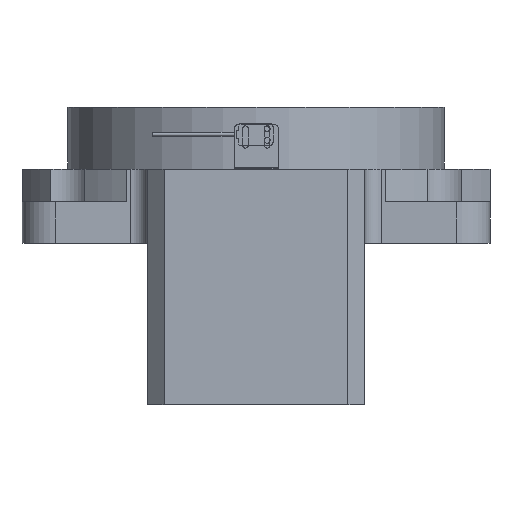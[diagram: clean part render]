
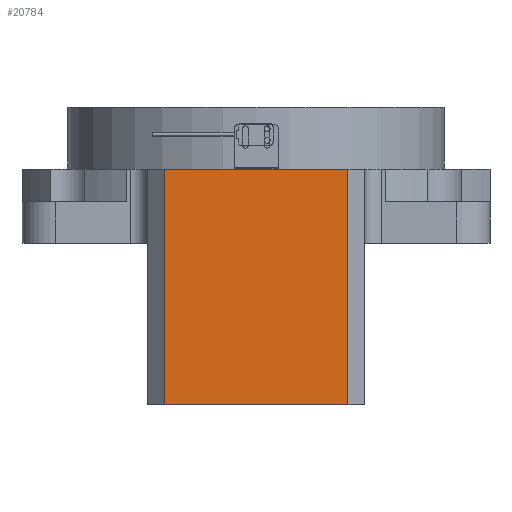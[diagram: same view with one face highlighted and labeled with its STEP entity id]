
A CAD part, front view. The second image highlights one B-rep face of the part: STEP entity #20784.
In plain terms, the highlighted planar face has unit normal (0, -1, 0).
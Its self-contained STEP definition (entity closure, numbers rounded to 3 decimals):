
#589 = CARTESIAN_POINT ( 'NONE',  ( -67.992, -177.645, 43.75 ) ) ;
#1160 = ORIENTED_EDGE ( 'NONE', *, *, #19049, .F. ) ;
#1302 = CARTESIAN_POINT ( 'NONE',  ( -67.992, -177.645, -97.25 ) ) ;
#1626 = LINE ( 'NONE', #30123, #11378 ) ;
#2577 = DIRECTION ( 'NONE',  ( 0., 1., 0. ) ) ;
#2611 = LINE ( 'NONE', #589, #11471 ) ;
#2724 = CARTESIAN_POINT ( 'NONE',  ( 42.008, -177.645, -97.25 ) ) ;
#4510 = VERTEX_POINT ( 'NONE', #16879 ) ;
#5062 = FACE_OUTER_BOUND ( 'NONE', #29558, .T. ) ;
#5529 = PLANE ( 'NONE',  #9931 ) ;
#6213 = CARTESIAN_POINT ( 'NONE',  ( 42.008, -177.645, 80.75 ) ) ;
#7570 = CARTESIAN_POINT ( 'NONE',  ( -67.992, -177.645, 80.75 ) ) ;
#8124 = EDGE_CURVE ( 'NONE', #30254, #4510, #2611, .T. ) ;
#8390 = LINE ( 'NONE', #6213, #22521 ) ;
#9425 = EDGE_CURVE ( 'NONE', #4510, #18528, #8390, .T. ) ;
#9578 = DIRECTION ( 'NONE',  ( 1., 0., 0. ) ) ;
#9613 = DIRECTION ( 'NONE',  ( 1., 0., 0. ) ) ;
#9931 = AXIS2_PLACEMENT_3D ( 'NONE', #7570, #2577, #9578 ) ;
#11378 = VECTOR ( 'NONE', #13846, 1000. ) ;
#11471 = VECTOR ( 'NONE', #9613, 1000. ) ;
#12188 = DIRECTION ( 'NONE',  ( -1., 0., 0. ) ) ;
#13846 = DIRECTION ( 'NONE',  ( 0., 0., -1. ) ) ;
#15769 = VECTOR ( 'NONE', #12188, 1000. ) ;
#16317 = CARTESIAN_POINT ( 'NONE',  ( 42.008, -177.645, -97.25 ) ) ;
#16879 = CARTESIAN_POINT ( 'NONE',  ( 42.008, -177.645, 43.75 ) ) ;
#18528 = VERTEX_POINT ( 'NONE', #16317 ) ;
#19049 = EDGE_CURVE ( 'NONE', #18528, #21781, #23973, .T. ) ;
#20784 = ADVANCED_FACE ( 'NONE', ( #5062 ), #5529, .F. ) ;
#21781 = VERTEX_POINT ( 'NONE', #1302 ) ;
#22209 = DIRECTION ( 'NONE',  ( 0., 0., -1. ) ) ;
#22383 = ORIENTED_EDGE ( 'NONE', *, *, #9425, .F. ) ;
#22521 = VECTOR ( 'NONE', #22209, 1000. ) ;
#23107 = EDGE_CURVE ( 'NONE', #30254, #21781, #1626, .T. ) ;
#23973 = LINE ( 'NONE', #2724, #15769 ) ;
#24118 = ORIENTED_EDGE ( 'NONE', *, *, #8124, .F. ) ;
#28426 = ORIENTED_EDGE ( 'NONE', *, *, #23107, .T. ) ;
#29558 = EDGE_LOOP ( 'NONE', ( #24118, #28426, #1160, #22383 ) ) ;
#30123 = CARTESIAN_POINT ( 'NONE',  ( -67.992, -177.645, 80.75 ) ) ;
#30221 = CARTESIAN_POINT ( 'NONE',  ( -67.992, -177.645, 43.75 ) ) ;
#30254 = VERTEX_POINT ( 'NONE', #30221 ) ;
